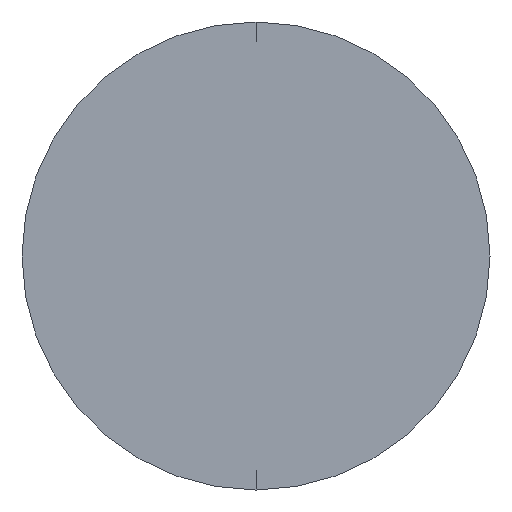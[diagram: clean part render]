
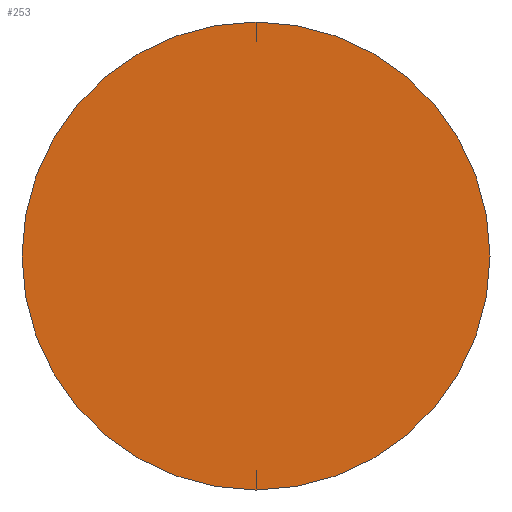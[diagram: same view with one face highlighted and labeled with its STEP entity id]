
A CAD part, left-side view. The second image highlights one B-rep face of the part: STEP entity #253.
In plain terms, the highlighted planar face has unit normal (-1, 0, 0).
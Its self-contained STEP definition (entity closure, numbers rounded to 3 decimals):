
#7 = CARTESIAN_POINT ( 'NONE',  ( 0., 0., 0. ) ) ;
#22 = CARTESIAN_POINT ( 'NONE',  ( 0., 0., 2. ) ) ;
#37 = FACE_OUTER_BOUND ( 'NONE', #66, .T. ) ;
#65 = DIRECTION ( 'NONE',  ( -1., 0., 0. ) ) ;
#66 = EDGE_LOOP ( 'NONE', ( #110, #292 ) ) ;
#82 = AXIS2_PLACEMENT_3D ( 'NONE', #263, #286, #117 ) ;
#85 = CIRCLE ( 'NONE', #248, 2. ) ;
#92 = DIRECTION ( 'NONE',  ( 0., 0., -1. ) ) ;
#107 = EDGE_CURVE ( 'NONE', #116, #285, #85, .T. ) ;
#110 = ORIENTED_EDGE ( 'NONE', *, *, #107, .T. ) ;
#116 = VERTEX_POINT ( 'NONE', #22 ) ;
#117 = DIRECTION ( 'NONE',  ( 0., 0., 1. ) ) ;
#133 = CARTESIAN_POINT ( 'NONE',  ( 0., 0., -2. ) ) ;
#192 = EDGE_CURVE ( 'NONE', #285, #116, #213, .T. ) ;
#205 = DIRECTION ( 'NONE',  ( 1., 0., 0. ) ) ;
#213 = CIRCLE ( 'NONE', #82, 2. ) ;
#227 = AXIS2_PLACEMENT_3D ( 'NONE', #273, #205, #92 ) ;
#245 = DIRECTION ( 'NONE',  ( 0., 0., 1. ) ) ;
#248 = AXIS2_PLACEMENT_3D ( 'NONE', #7, #65, #245 ) ;
#251 = PLANE ( 'NONE',  #227 ) ;
#253 = ADVANCED_FACE ( 'NONE', ( #37 ), #251, .F. ) ;
#263 = CARTESIAN_POINT ( 'NONE',  ( 0., 0., 0. ) ) ;
#273 = CARTESIAN_POINT ( 'NONE',  ( 0., 0., 0. ) ) ;
#285 = VERTEX_POINT ( 'NONE', #133 ) ;
#286 = DIRECTION ( 'NONE',  ( -1., 0., 0. ) ) ;
#292 = ORIENTED_EDGE ( 'NONE', *, *, #192, .T. ) ;
